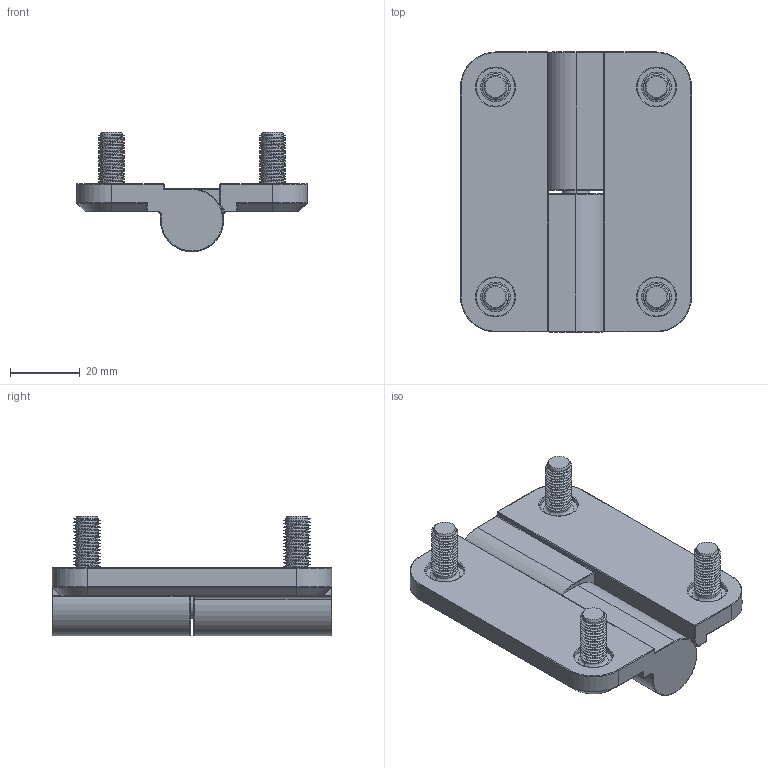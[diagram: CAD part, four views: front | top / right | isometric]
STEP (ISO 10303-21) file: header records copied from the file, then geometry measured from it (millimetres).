
FILE_DESCRIPTION (( 'STEP AP203' ), '1' );
FILE_NAME ('9-01824.STEP', '2017-09-06T04:35:43', ( 'rquinn' ), ( '' ), 'SwSTEP 2.0', 'SolidWorks 2017', '' );
FILE_SCHEMA (( 'CONFIG_CONTROL_DESIGN' ));
Length unit declared in the file: millimetre
Products named in the file (3): 9-01824-HF-M_9-01824-HF; 9-01824-HM; 9-01824
Assembly tree (2 placements, depth 2):
  9-01824
    9-01824-HF-M_9-01824-HF
    9-01824-HM
Bounding box: 66 x 80 x 34.15 mm (x, y, z)
Volume: 53401.2 mm3; surface area: 18725 mm2
Topology: 2 solids, 2 shells, 322 faces, 821 edges, 505 vertices
Faces by surface type: cylinder 191, torus 51, plane 44, cone 14, bspline 14, sphere 8
Entity records: 16396 total; most frequent: CARTESIAN_POINT 9075, ORIENTED_EDGE 1626, DIRECTION 1395, EDGE_CURVE 813, AXIS2_PLACEMENT_3D 549, VERTEX_POINT 505, EDGE_LOOP 332, FACE_OUTER_BOUND 322
